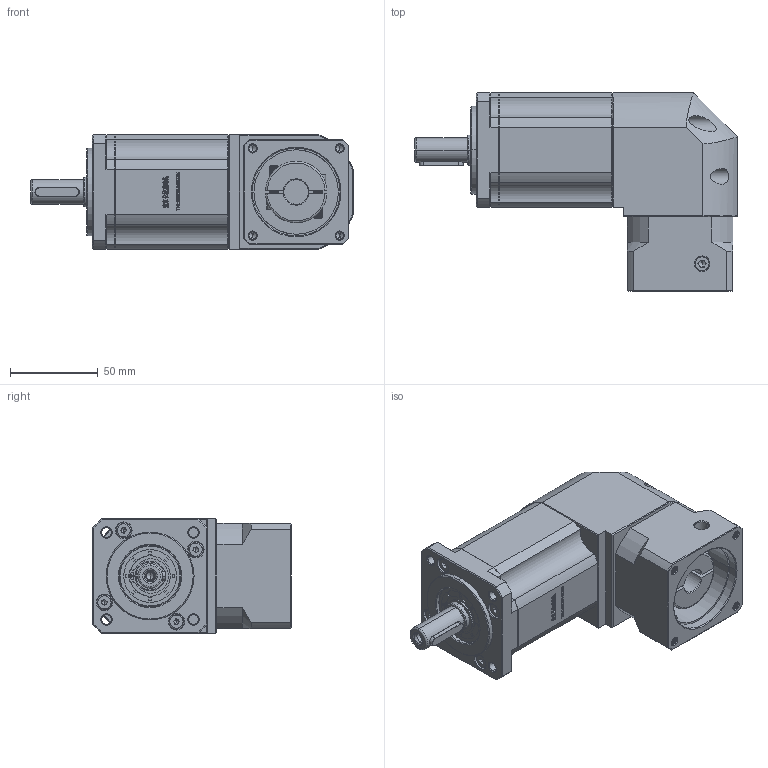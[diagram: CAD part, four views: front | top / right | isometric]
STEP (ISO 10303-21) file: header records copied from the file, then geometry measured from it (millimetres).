
FILE_DESCRIPTION (( 'STEP AP214' ), '1' );
FILE_NAME ('ZBR60-D14-L3-14-50-70-M5.STEP', '2022-04-19T08:57:29', ( '' ), ( 'Microsoft' ), 'SwSTEP 2.0', 'SolidWorks 2016', '' );
FILE_SCHEMA (( 'AUTOMOTIVE_DESIGN' ));
Length unit declared in the file: millimetre
Products named in the file (1): ZBR60-D14-L3-14-50-70-M5
Bounding box: 183.5 x 112.7 x 65 mm (x, y, z)
Volume: 646133.9 mm3; surface area: 85713.8 mm2
Topology: 5 solids, 5 shells, 2843 faces, 7685 edges, 4978 vertices
Faces by surface type: plane 1472, bspline 591, cylinder 432, cone 326, torus 22
Entity records: 155269 total; most frequent: CARTESIAN_POINT 56959, ORIENTED_EDGE 15310, DIRECTION 11621, EDGE_CURVE 7655, VECTOR 5057, LINE 5057, VERTEX_POINT 4978, AXIS2_PLACEMENT_3D 3282
